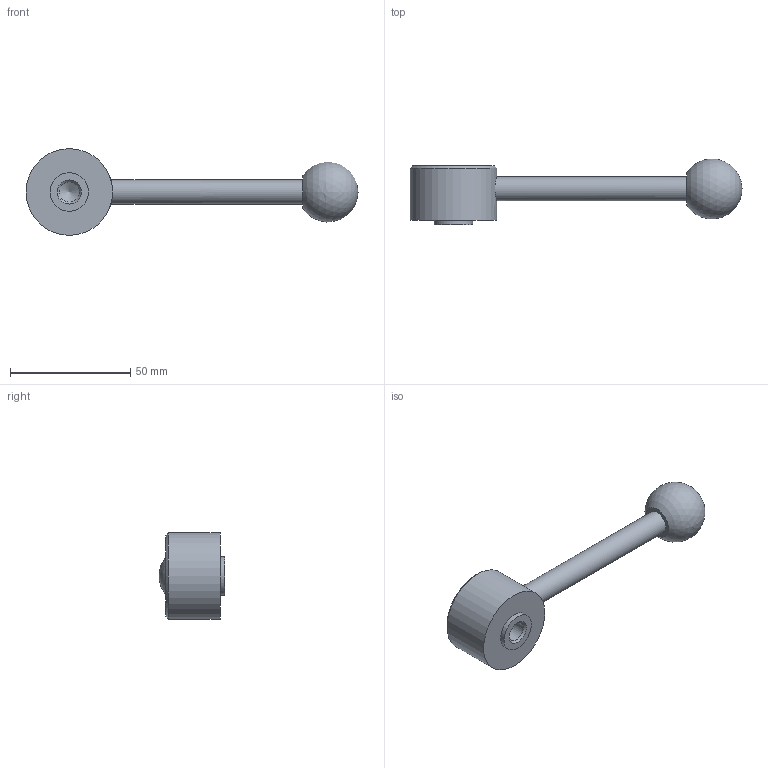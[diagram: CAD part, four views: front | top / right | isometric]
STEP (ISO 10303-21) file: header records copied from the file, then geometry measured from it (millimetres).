
FILE_DESCRIPTION( ( 'STEP AP203' ), '1' );
FILE_NAME( 'C:/Temp/Ganter_Step_05_03_2020/data/2_1/gn_125/gn_125_mb/gn_125_mb_d/Flat Adjustable Lever GN 125-36-M10-D.stp', '2020-03-05T11:00:39', ( 'License CC BY-ND 4.0' ), ( 'CADENAS' ), ' ', 'PARTsolutions', ' ' );
FILE_SCHEMA( ( 'CONFIG_CONTROL_DESIGN' ) );
Length unit declared in the file: millimetre
Products named in the file (1): _Flat Adjustable Lever GN 125-36-M10-D
Bounding box: 138 x 27.38 x 36 mm (x, y, z)
Volume: 36541.1 mm3; surface area: 9285 mm2
Topology: 1 solids, 1 shells, 14 faces, 25 edges, 16 vertices
Faces by surface type: cylinder 5, plane 5, cone 3, sphere 1
Full cylindrical faces by diameter (mm): 8.376 x1, 10 x1, 16 x1, 26 x1, 36 x1
Entity records: 396 total; most frequent: CARTESIAN_POINT 116, DIRECTION 54, AXIS2_PLACEMENT_3D 27, EDGE_LOOP 26, ORIENTED_EDGE 26, FACE_OUTER_BOUND 19, VERTEX_POINT 15, ADVANCED_FACE 14
